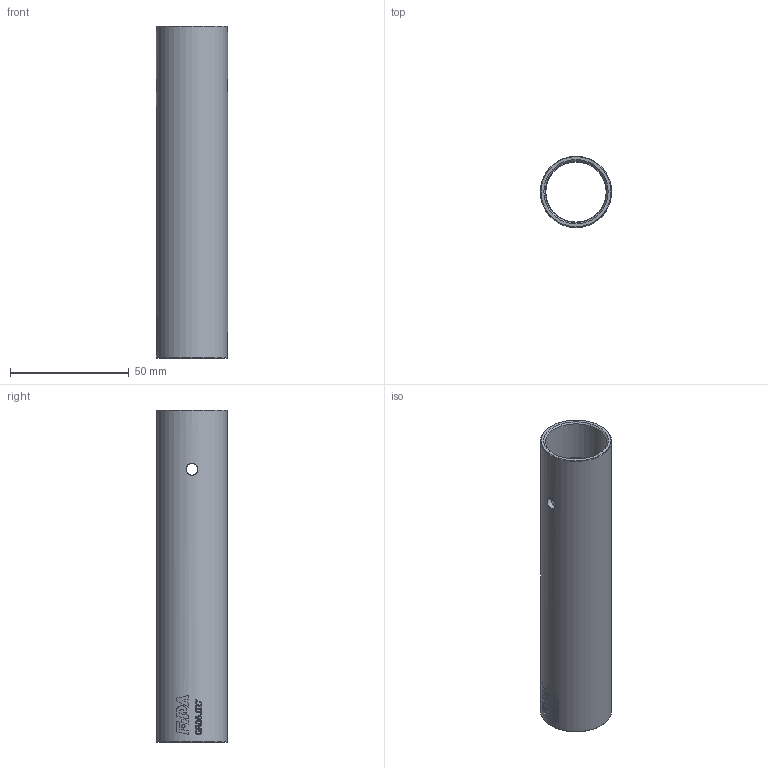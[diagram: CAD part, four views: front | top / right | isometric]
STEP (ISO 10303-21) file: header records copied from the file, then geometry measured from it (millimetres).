
FILE_DESCRIPTION(/* description */ ('Verlängerungsrohr'),/* implementation_level */ '2;1');
FILE_NAME(/* name */ 'W:\Technik\Konstruktion\CAD-Daten\EOAT\GR06_\GR06.026\02 Aktueller Zeichnungsstand PDF--STEP\GR06.027.stp',/* time_stamp */ '2020-01-07T15:00:25+01:00',/* author */ ('CJost'),/* organization */ (''),/* preprocessor_version */ 'ST-DEVELOPER v17.2',/* originating_system */ 'Autodesk Inventor 2019',/* authorisation */ '');
FILE_SCHEMA (('AUTOMOTIVE_DESIGN { 1 0 10303 214 3 1 1 }'));
Length unit declared in the file: millimetre
Products named in the file (1): GR06.027
Bounding box: 29.95 x 29.95 x 140 mm (x, y, z)
Volume: 26714.2 mm3; surface area: 24748.3 mm2
Topology: 1 solids, 1 shells, 169 faces, 453 edges, 302 vertices
Faces by surface type: bspline 75, plane 65, cylinder 25, cone 4
Full cylindrical faces by diameter (mm): 1.43 x1, 5 x2, 25.5 x1, 25.918 x1, 29.95 x1
Entity records: 7865 total; most frequent: CARTESIAN_POINT 3875, ORIENTED_EDGE 906, DIRECTION 551, EDGE_CURVE 453, VERTEX_POINT 302, LINE 213, VECTOR 213, EDGE_LOOP 191
